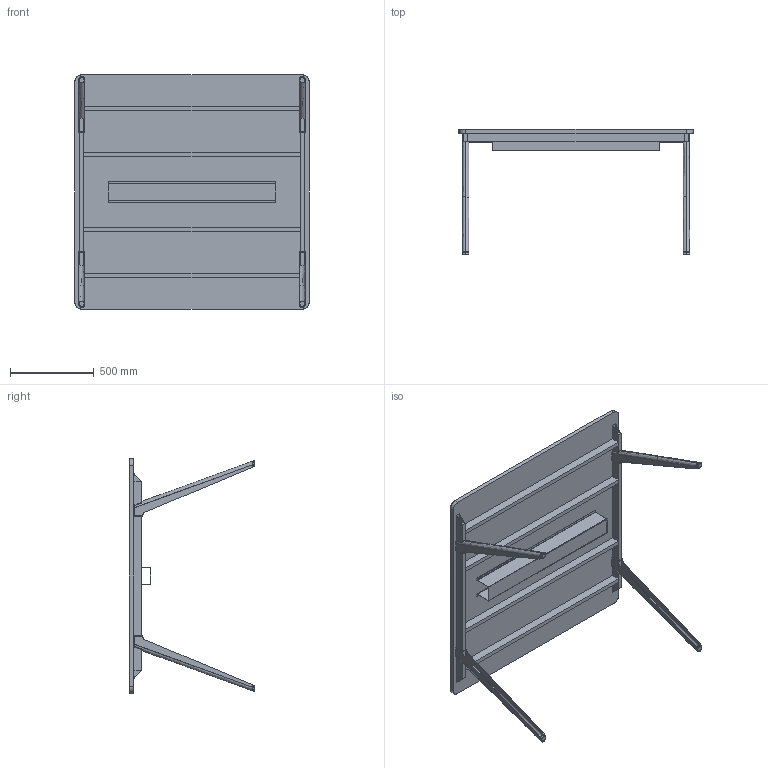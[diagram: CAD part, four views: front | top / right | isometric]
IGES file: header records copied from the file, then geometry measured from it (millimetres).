
Start section: SolidWorks IGES file using analytic representation for surfaces
Global section: file name: C:\Users\simone.cerana\OneDrive - Gruppo Tecno\Desktop\CHINA\DISEGNI DI SERIE\ASSIEMI LISTINO\HORIZON LISTINO\FULL OPTIONAL\HO1414MF.IGS; native system: SolidWorks 2024; preprocessor: SolidWorks 2024; author: simone.cerana; date: 260512.155642; units: millimetre
Bounding box: 1400 x 750.58 x 1400 mm (x, y, z)
Surface area: 6266067.7 mm2 (no closed solid volume)
Topology: 0 solids, 0 shells, 319 faces, 3988 edges, 3988 vertices
Faces by surface type: bspline 223, revolution 96
